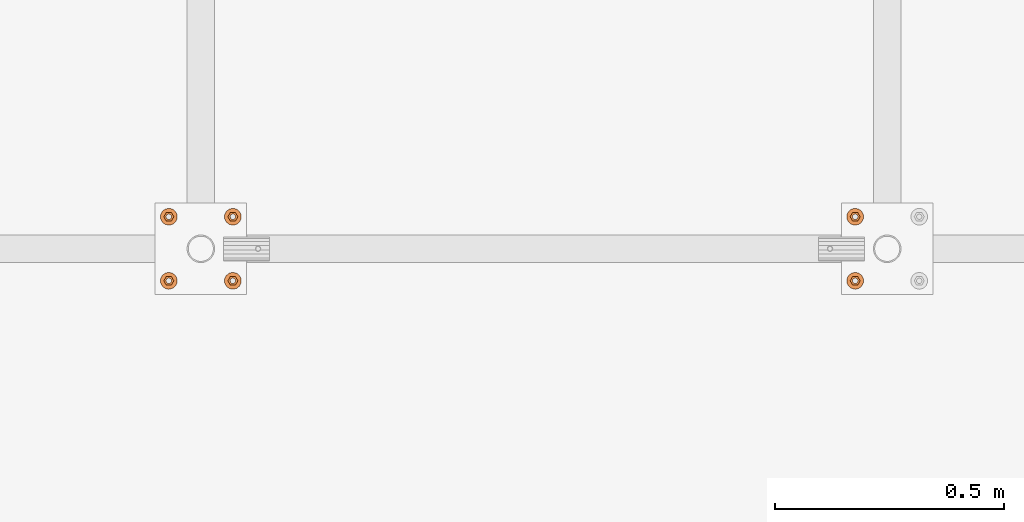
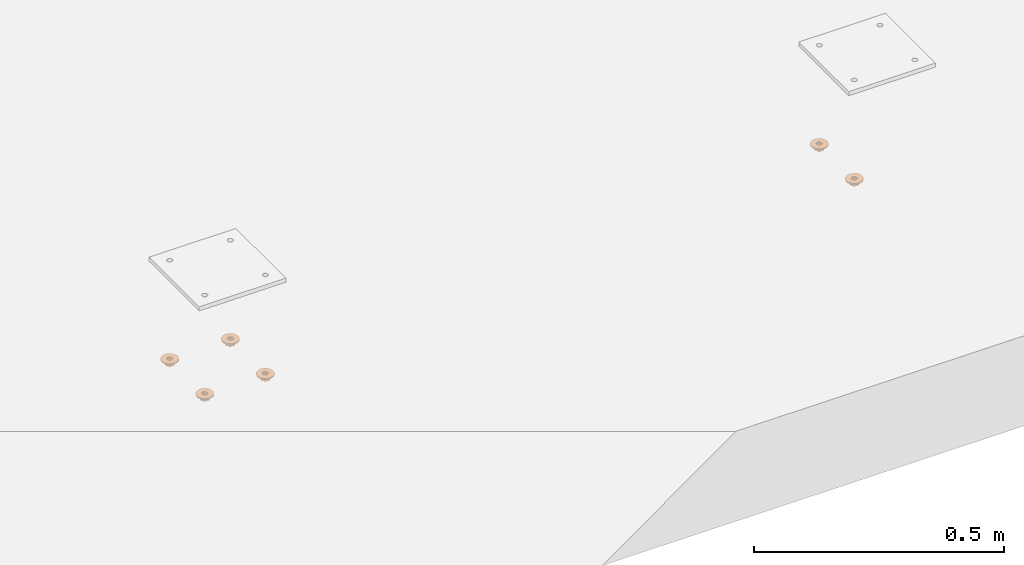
# One storey, part 25 of 30: 12 proxies.
"""IFC2X3 building model written with IfcOpenShell, lengths in millimetres."""

from ifc_helpers import new_model, entity, si_unit, converted_unit, origin_with_axes, place, context, project, spatial, faceted_brep, material, element, save


model = new_model("IFC2X3")

# Units and contexts
model_context = context("Model", 3, precision=1e-09, world=origin_with_axes())
ifc_project = project(units=[si_unit("LENGTHUNIT", "METRE", prefix="MILLI"), si_unit("AREAUNIT", "SQUARE_METRE"), si_unit("VOLUMEUNIT", "CUBIC_METRE"), converted_unit("PLANEANGLEUNIT", "DEGREE", entity("IfcPlaneAngleMeasure", 0.01745329), si_unit("PLANEANGLEUNIT", "RADIAN"), dimensions=[0, 0, 0, 0, 0, 0, 0])], contexts=[model_context])

# Site, building, storey
site_placement = place(None, origin_with_axes())
site = spatial("IfcSite", under=ifc_project, at=site_placement, Name="M?nsinger Stra?e, 81477 M?nchen", CompositionType="ELEMENT")
building_placement = place(site_placement, origin_with_axes())
building = spatial("IfcBuilding", under=site, at=building_placement, Name="Struktur 1", CompositionType="ELEMENT")
storey_placement = place(building_placement, origin_with_axes())
storey = spatial("IfcBuildingStorey", under=building, at=storey_placement, Name="Default Storey", CompositionType="ELEMENT", Elevation=0.0)

# Proxies
ifc_material = material(Name="Kein")
proxy_1_placement = place(None, origin_with_axes())
element("IfcBuildingElementProxy", 1, at=proxy_1_placement, inside=storey, material=ifc_material, ObjectType="-", context=model_context, shape_type="Brep", body=[
    faceted_brep([(5961.851234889, 1409.728698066, 6515.0), (5961.851234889, 1409.728698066, 6512.0), (5968.288268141, 1404.595335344, 6512.0), (5968.288268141, 1404.595335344, 6515.0), (5958.278950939, 1425.379896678, 6515.0), (5958.278950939, 1417.146622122, 6515.0), (5976.315117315, 1402.7632594, 6515.0), (5984.341966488, 1404.595335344, 6515.0), (5990.77899974, 1409.728698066, 6515.0), (5994.35128369, 1417.146622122, 6515.0), (5994.35128369, 1425.379896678, 6515.0), (5990.77899974, 1432.797820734, 6515.0), (5984.341966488, 1437.931183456, 6515.0), (5976.315117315, 1439.7632594, 6515.0), (5968.288268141, 1437.931183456, 6515.0), (5961.851234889, 1432.797820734, 6515.0), (5970.68595219, 1418.0132594, 6515.0), (5969.815117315, 1421.2632594, 6515.0), (5970.68595219, 1424.5132594, 6515.0), (5973.065117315, 1426.892424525, 6515.0), (5976.315117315, 1427.7632594, 6515.0), (5979.565117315, 1426.892424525, 6515.0), (5981.944282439, 1424.5132594, 6515.0), (5982.815117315, 1421.2632594, 6515.0), (5981.944282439, 1418.0132594, 6515.0), (5979.565117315, 1415.634094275, 6515.0), (5976.315117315, 1414.7632594, 6515.0), (5973.065117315, 1415.634094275, 6515.0), (5984.341966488, 1404.595335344, 6512.0), (5976.315117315, 1402.7632594, 6512.0), (5958.278950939, 1417.146622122, 6512.0), (5958.278950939, 1425.379896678, 6512.0), (5961.851234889, 1432.797820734, 6512.0), (5968.288268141, 1437.931183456, 6512.0), (5976.315117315, 1439.7632594, 6512.0), (5984.341966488, 1437.931183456, 6512.0), (5990.77899974, 1432.797820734, 6512.0), (5994.35128369, 1425.379896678, 6512.0), (5994.35128369, 1417.146622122, 6512.0), (5990.77899974, 1409.728698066, 6512.0), (5976.315117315, 1414.7632594, 6512.0), (5979.565117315, 1415.634094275, 6512.0), (5981.944282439, 1418.0132594, 6512.0), (5982.815117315, 1421.2632594, 6512.0), (5981.944282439, 1424.5132594, 6512.0), (5979.565117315, 1426.892424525, 6512.0), (5976.315117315, 1427.7632594, 6512.0), (5973.065117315, 1426.892424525, 6512.0), (5970.68595219, 1424.5132594, 6512.0), (5969.815117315, 1421.2632594, 6512.0), (5970.68595219, 1418.0132594, 6512.0), (5973.065117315, 1415.634094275, 6512.0)], [[[0, 1, 2, 3]], [[4, 5, 0, 3, 6, 7, 8, 9, 10, 11, 12, 13, 14, 15], [16, 17, 18, 19, 20, 21, 22, 23, 24, 25, 26, 27]], [[28, 29, 2, 1, 30, 31, 32, 33, 34, 35, 36, 37, 38, 39], [40, 41, 42, 43, 44, 45, 46, 47, 48, 49, 50, 51]], [[1, 0, 5, 30]], [[27, 51, 50, 16]], [[51, 27, 26, 40]], [[3, 2, 29, 6]], [[30, 5, 4, 31]], [[16, 50, 49, 17]], [[40, 26, 25, 41]], [[6, 29, 28, 7]], [[31, 4, 15, 32]], [[17, 49, 48, 18]], [[41, 25, 24, 42]], [[7, 28, 39, 8]], [[32, 15, 14, 33]], [[18, 48, 47, 19]], [[42, 24, 23, 43]], [[8, 39, 38, 9]], [[33, 14, 13, 34]], [[19, 47, 46, 20]], [[22, 44, 43, 23]], [[9, 38, 37, 10]], [[45, 21, 20, 46]], [[44, 22, 21, 45]], [[34, 13, 12, 35]], [[10, 37, 36, 11]], [[35, 12, 11, 36]]]),
])
proxy_2_placement = place(None, origin_with_axes())
element("IfcBuildingElementProxy", 2, at=proxy_2_placement, inside=storey, material=ifc_material, ObjectType="-", context=model_context, shape_type="Brep", body=[
    faceted_brep([(5976.315117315, 1415.2632594, 6512.0), (5976.315117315, 1415.2632594, 6502.0), (5973.315117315, 1416.067106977, 6502.0), (5973.315117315, 1416.067106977, 6512.0), (5971.118964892, 1418.2632594, 6502.0), (5971.118964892, 1418.2632594, 6512.0), (5979.315117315, 1416.067106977, 6512.0), (5979.315117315, 1416.067106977, 6502.0), (5981.799944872, 1411.7632594, 6512.0), (5987.284772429, 1421.2632594, 6512.0), (5981.799944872, 1430.7632594, 6512.0), (5970.830289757, 1430.7632594, 6512.0), (5965.3454622, 1421.2632594, 6512.0), (5970.830289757, 1411.7632594, 6512.0), (5981.511269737, 1418.2632594, 6512.0), (5970.315117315, 1421.2632594, 6512.0), (5971.118964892, 1424.2632594, 6512.0), (5973.315117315, 1426.459411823, 6512.0), (5976.315117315, 1427.2632594, 6512.0), (5979.315117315, 1426.459411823, 6512.0), (5981.511269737, 1424.2632594, 6512.0), (5982.315117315, 1421.2632594, 6512.0), (5987.284772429, 1421.2632594, 6502.0), (5981.799944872, 1411.7632594, 6502.0), (5970.830289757, 1411.7632594, 6502.0), (5965.3454622, 1421.2632594, 6502.0), (5970.830289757, 1430.7632594, 6502.0), (5981.799944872, 1430.7632594, 6502.0), (5981.511269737, 1418.2632594, 6502.0), (5982.315117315, 1421.2632594, 6502.0), (5981.511269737, 1424.2632594, 6502.0), (5979.315117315, 1426.459411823, 6502.0), (5976.315117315, 1427.2632594, 6502.0), (5973.315117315, 1426.459411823, 6502.0), (5971.118964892, 1424.2632594, 6502.0), (5970.315117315, 1421.2632594, 6502.0)], [[[0, 1, 2, 3]], [[3, 2, 4, 5]], [[1, 0, 6, 7]], [[8, 9, 10, 11, 12, 13], [14, 6, 0, 3, 5, 15, 16, 17, 18, 19, 20, 21]], [[22, 23, 24, 25, 26, 27], [1, 7, 28, 29, 30, 31, 32, 33, 34, 35, 4, 2]], [[7, 6, 14, 28]], [[24, 23, 8, 13]], [[5, 4, 35, 15]], [[13, 12, 25, 24]], [[28, 14, 21, 29]], [[23, 22, 9, 8]], [[15, 35, 34, 16]], [[12, 11, 26, 25]], [[29, 21, 20, 30]], [[22, 27, 10, 9]], [[16, 34, 33, 17]], [[27, 26, 11, 10]], [[30, 20, 19, 31]], [[17, 33, 32, 18]], [[31, 19, 18, 32]]]),
])
proxy_3_placement = place(None, origin_with_axes())
element("IfcBuildingElementProxy", 3, at=proxy_3_placement, inside=storey, material=ifc_material, ObjectType="-", context=model_context, shape_type="Brep", body=[
    faceted_brep([(5976.315117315, 1555.2632594, 6512.0), (5976.315117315, 1555.2632594, 6502.0), (5973.315117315, 1556.067106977, 6502.0), (5973.315117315, 1556.067106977, 6512.0), (5971.118964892, 1558.2632594, 6502.0), (5971.118964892, 1558.2632594, 6512.0), (5979.315117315, 1556.067106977, 6512.0), (5979.315117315, 1556.067106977, 6502.0), (5981.799944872, 1551.7632594, 6512.0), (5987.284772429, 1561.2632594, 6512.0), (5981.799944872, 1570.7632594, 6512.0), (5970.830289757, 1570.7632594, 6512.0), (5965.3454622, 1561.2632594, 6512.0), (5970.830289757, 1551.7632594, 6512.0), (5981.511269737, 1558.2632594, 6512.0), (5970.315117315, 1561.2632594, 6512.0), (5971.118964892, 1564.2632594, 6512.0), (5973.315117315, 1566.459411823, 6512.0), (5976.315117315, 1567.2632594, 6512.0), (5979.315117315, 1566.459411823, 6512.0), (5981.511269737, 1564.2632594, 6512.0), (5982.315117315, 1561.2632594, 6512.0), (5987.284772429, 1561.2632594, 6502.0), (5981.799944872, 1551.7632594, 6502.0), (5970.830289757, 1551.7632594, 6502.0), (5965.3454622, 1561.2632594, 6502.0), (5970.830289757, 1570.7632594, 6502.0), (5981.799944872, 1570.7632594, 6502.0), (5981.511269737, 1558.2632594, 6502.0), (5982.315117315, 1561.2632594, 6502.0), (5981.511269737, 1564.2632594, 6502.0), (5979.315117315, 1566.459411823, 6502.0), (5976.315117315, 1567.2632594, 6502.0), (5973.315117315, 1566.459411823, 6502.0), (5971.118964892, 1564.2632594, 6502.0), (5970.315117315, 1561.2632594, 6502.0)], [[[0, 1, 2, 3]], [[3, 2, 4, 5]], [[1, 0, 6, 7]], [[8, 9, 10, 11, 12, 13], [14, 6, 0, 3, 5, 15, 16, 17, 18, 19, 20, 21]], [[22, 23, 24, 25, 26, 27], [1, 7, 28, 29, 30, 31, 32, 33, 34, 35, 4, 2]], [[7, 6, 14, 28]], [[24, 23, 8, 13]], [[5, 4, 35, 15]], [[13, 12, 25, 24]], [[28, 14, 21, 29]], [[23, 22, 9, 8]], [[15, 35, 34, 16]], [[12, 11, 26, 25]], [[29, 21, 20, 30]], [[22, 27, 10, 9]], [[16, 34, 33, 17]], [[27, 26, 11, 10]], [[30, 20, 19, 31]], [[17, 33, 32, 18]], [[31, 19, 18, 32]]]),
])
proxy_4_placement = place(None, origin_with_axes())
element("IfcBuildingElementProxy", 4, at=proxy_4_placement, inside=storey, material=ifc_material, ObjectType="-", context=model_context, shape_type="Brep", body=[
    faceted_brep([(5961.851234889, 1549.728698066, 6515.0), (5961.851234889, 1549.728698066, 6512.0), (5968.288268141, 1544.595335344, 6512.0), (5968.288268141, 1544.595335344, 6515.0), (5958.278950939, 1565.379896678, 6515.0), (5958.278950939, 1557.146622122, 6515.0), (5976.315117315, 1542.7632594, 6515.0), (5984.341966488, 1544.595335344, 6515.0), (5990.77899974, 1549.728698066, 6515.0), (5994.35128369, 1557.146622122, 6515.0), (5994.35128369, 1565.379896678, 6515.0), (5990.77899974, 1572.797820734, 6515.0), (5984.341966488, 1577.931183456, 6515.0), (5976.315117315, 1579.7632594, 6515.0), (5968.288268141, 1577.931183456, 6515.0), (5961.851234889, 1572.797820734, 6515.0), (5970.68595219, 1558.0132594, 6515.0), (5969.815117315, 1561.2632594, 6515.0), (5970.68595219, 1564.5132594, 6515.0), (5973.065117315, 1566.892424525, 6515.0), (5976.315117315, 1567.7632594, 6515.0), (5979.565117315, 1566.892424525, 6515.0), (5981.944282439, 1564.5132594, 6515.0), (5982.815117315, 1561.2632594, 6515.0), (5981.944282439, 1558.0132594, 6515.0), (5979.565117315, 1555.634094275, 6515.0), (5976.315117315, 1554.7632594, 6515.0), (5973.065117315, 1555.634094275, 6515.0), (5984.341966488, 1544.595335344, 6512.0), (5976.315117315, 1542.7632594, 6512.0), (5958.278950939, 1557.146622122, 6512.0), (5958.278950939, 1565.379896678, 6512.0), (5961.851234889, 1572.797820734, 6512.0), (5968.288268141, 1577.931183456, 6512.0), (5976.315117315, 1579.7632594, 6512.0), (5984.341966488, 1577.931183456, 6512.0), (5990.77899974, 1572.797820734, 6512.0), (5994.35128369, 1565.379896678, 6512.0), (5994.35128369, 1557.146622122, 6512.0), (5990.77899974, 1549.728698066, 6512.0), (5976.315117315, 1554.7632594, 6512.0), (5979.565117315, 1555.634094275, 6512.0), (5981.944282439, 1558.0132594, 6512.0), (5982.815117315, 1561.2632594, 6512.0), (5981.944282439, 1564.5132594, 6512.0), (5979.565117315, 1566.892424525, 6512.0), (5976.315117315, 1567.7632594, 6512.0), (5973.065117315, 1566.892424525, 6512.0), (5970.68595219, 1564.5132594, 6512.0), (5969.815117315, 1561.2632594, 6512.0), (5970.68595219, 1558.0132594, 6512.0), (5973.065117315, 1555.634094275, 6512.0)], [[[0, 1, 2, 3]], [[4, 5, 0, 3, 6, 7, 8, 9, 10, 11, 12, 13, 14, 15], [16, 17, 18, 19, 20, 21, 22, 23, 24, 25, 26, 27]], [[28, 29, 2, 1, 30, 31, 32, 33, 34, 35, 36, 37, 38, 39], [40, 41, 42, 43, 44, 45, 46, 47, 48, 49, 50, 51]], [[1, 0, 5, 30]], [[27, 51, 50, 16]], [[51, 27, 26, 40]], [[3, 2, 29, 6]], [[30, 5, 4, 31]], [[16, 50, 49, 17]], [[40, 26, 25, 41]], [[6, 29, 28, 7]], [[31, 4, 15, 32]], [[17, 49, 48, 18]], [[41, 25, 24, 42]], [[7, 28, 39, 8]], [[32, 15, 14, 33]], [[18, 48, 47, 19]], [[42, 24, 23, 43]], [[8, 39, 38, 9]], [[33, 14, 13, 34]], [[19, 47, 46, 20]], [[22, 44, 43, 23]], [[9, 38, 37, 10]], [[45, 21, 20, 46]], [[44, 22, 21, 45]], [[34, 13, 12, 35]], [[10, 37, 36, 11]], [[35, 12, 11, 36]]]),
])
proxy_5_placement = place(None, origin_with_axes())
element("IfcBuildingElementProxy", 5, at=proxy_5_placement, inside=storey, material=ifc_material, ObjectType="-", context=model_context, shape_type="Brep", body=[
    faceted_brep([(5821.851234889, 1549.728698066, 6515.0), (5821.851234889, 1549.728698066, 6512.0), (5828.288268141, 1544.595335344, 6512.0), (5828.288268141, 1544.595335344, 6515.0), (5818.278950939, 1565.379896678, 6515.0), (5818.278950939, 1557.146622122, 6515.0), (5836.315117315, 1542.7632594, 6515.0), (5844.341966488, 1544.595335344, 6515.0), (5850.77899974, 1549.728698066, 6515.0), (5854.35128369, 1557.146622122, 6515.0), (5854.35128369, 1565.379896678, 6515.0), (5850.77899974, 1572.797820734, 6515.0), (5844.341966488, 1577.931183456, 6515.0), (5836.315117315, 1579.7632594, 6515.0), (5828.288268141, 1577.931183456, 6515.0), (5821.851234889, 1572.797820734, 6515.0), (5830.68595219, 1558.0132594, 6515.0), (5829.815117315, 1561.2632594, 6515.0), (5830.68595219, 1564.5132594, 6515.0), (5833.065117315, 1566.892424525, 6515.0), (5836.315117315, 1567.7632594, 6515.0), (5839.565117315, 1566.892424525, 6515.0), (5841.944282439, 1564.5132594, 6515.0), (5842.815117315, 1561.2632594, 6515.0), (5841.944282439, 1558.0132594, 6515.0), (5839.565117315, 1555.634094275, 6515.0), (5836.315117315, 1554.7632594, 6515.0), (5833.065117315, 1555.634094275, 6515.0), (5844.341966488, 1544.595335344, 6512.0), (5836.315117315, 1542.7632594, 6512.0), (5818.278950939, 1557.146622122, 6512.0), (5818.278950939, 1565.379896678, 6512.0), (5821.851234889, 1572.797820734, 6512.0), (5828.288268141, 1577.931183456, 6512.0), (5836.315117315, 1579.7632594, 6512.0), (5844.341966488, 1577.931183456, 6512.0), (5850.77899974, 1572.797820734, 6512.0), (5854.35128369, 1565.379896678, 6512.0), (5854.35128369, 1557.146622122, 6512.0), (5850.77899974, 1549.728698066, 6512.0), (5836.315117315, 1554.7632594, 6512.0), (5839.565117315, 1555.634094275, 6512.0), (5841.944282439, 1558.0132594, 6512.0), (5842.815117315, 1561.2632594, 6512.0), (5841.944282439, 1564.5132594, 6512.0), (5839.565117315, 1566.892424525, 6512.0), (5836.315117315, 1567.7632594, 6512.0), (5833.065117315, 1566.892424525, 6512.0), (5830.68595219, 1564.5132594, 6512.0), (5829.815117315, 1561.2632594, 6512.0), (5830.68595219, 1558.0132594, 6512.0), (5833.065117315, 1555.634094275, 6512.0)], [[[0, 1, 2, 3]], [[4, 5, 0, 3, 6, 7, 8, 9, 10, 11, 12, 13, 14, 15], [16, 17, 18, 19, 20, 21, 22, 23, 24, 25, 26, 27]], [[28, 29, 2, 1, 30, 31, 32, 33, 34, 35, 36, 37, 38, 39], [40, 41, 42, 43, 44, 45, 46, 47, 48, 49, 50, 51]], [[1, 0, 5, 30]], [[27, 51, 50, 16]], [[51, 27, 26, 40]], [[3, 2, 29, 6]], [[30, 5, 4, 31]], [[16, 50, 49, 17]], [[40, 26, 25, 41]], [[6, 29, 28, 7]], [[31, 4, 15, 32]], [[17, 49, 48, 18]], [[41, 25, 24, 42]], [[7, 28, 39, 8]], [[32, 15, 14, 33]], [[18, 48, 47, 19]], [[42, 24, 23, 43]], [[8, 39, 38, 9]], [[33, 14, 13, 34]], [[19, 47, 46, 20]], [[22, 44, 43, 23]], [[9, 38, 37, 10]], [[45, 21, 20, 46]], [[44, 22, 21, 45]], [[34, 13, 12, 35]], [[10, 37, 36, 11]], [[35, 12, 11, 36]]]),
])
proxy_6_placement = place(None, origin_with_axes())
element("IfcBuildingElementProxy", 6, at=proxy_6_placement, inside=storey, material=ifc_material, ObjectType="-", context=model_context, shape_type="Brep", body=[
    faceted_brep([(5836.315117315, 1555.2632594, 6512.0), (5836.315117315, 1555.2632594, 6502.0), (5833.315117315, 1556.067106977, 6502.0), (5833.315117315, 1556.067106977, 6512.0), (5831.118964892, 1558.2632594, 6502.0), (5831.118964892, 1558.2632594, 6512.0), (5839.315117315, 1556.067106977, 6512.0), (5839.315117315, 1556.067106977, 6502.0), (5841.799944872, 1551.7632594, 6512.0), (5847.284772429, 1561.2632594, 6512.0), (5841.799944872, 1570.7632594, 6512.0), (5830.830289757, 1570.7632594, 6512.0), (5825.3454622, 1561.2632594, 6512.0), (5830.830289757, 1551.7632594, 6512.0), (5841.511269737, 1558.2632594, 6512.0), (5830.315117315, 1561.2632594, 6512.0), (5831.118964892, 1564.2632594, 6512.0), (5833.315117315, 1566.459411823, 6512.0), (5836.315117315, 1567.2632594, 6512.0), (5839.315117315, 1566.459411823, 6512.0), (5841.511269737, 1564.2632594, 6512.0), (5842.315117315, 1561.2632594, 6512.0), (5847.284772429, 1561.2632594, 6502.0), (5841.799944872, 1551.7632594, 6502.0), (5830.830289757, 1551.7632594, 6502.0), (5825.3454622, 1561.2632594, 6502.0), (5830.830289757, 1570.7632594, 6502.0), (5841.799944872, 1570.7632594, 6502.0), (5841.511269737, 1558.2632594, 6502.0), (5842.315117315, 1561.2632594, 6502.0), (5841.511269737, 1564.2632594, 6502.0), (5839.315117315, 1566.459411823, 6502.0), (5836.315117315, 1567.2632594, 6502.0), (5833.315117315, 1566.459411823, 6502.0), (5831.118964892, 1564.2632594, 6502.0), (5830.315117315, 1561.2632594, 6502.0)], [[[0, 1, 2, 3]], [[3, 2, 4, 5]], [[1, 0, 6, 7]], [[8, 9, 10, 11, 12, 13], [14, 6, 0, 3, 5, 15, 16, 17, 18, 19, 20, 21]], [[22, 23, 24, 25, 26, 27], [1, 7, 28, 29, 30, 31, 32, 33, 34, 35, 4, 2]], [[7, 6, 14, 28]], [[24, 23, 8, 13]], [[5, 4, 35, 15]], [[13, 12, 25, 24]], [[28, 14, 21, 29]], [[23, 22, 9, 8]], [[15, 35, 34, 16]], [[12, 11, 26, 25]], [[29, 21, 20, 30]], [[22, 27, 10, 9]], [[16, 34, 33, 17]], [[27, 26, 11, 10]], [[30, 20, 19, 31]], [[17, 33, 32, 18]], [[31, 19, 18, 32]]]),
])
proxy_7_placement = place(None, origin_with_axes())
element("IfcBuildingElementProxy", 7, at=proxy_7_placement, inside=storey, material=ifc_material, ObjectType="-", context=model_context, shape_type="Brep", body=[
    faceted_brep([(5836.315117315, 1415.2632594, 6512.0), (5836.315117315, 1415.2632594, 6502.0), (5833.315117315, 1416.067106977, 6502.0), (5833.315117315, 1416.067106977, 6512.0), (5831.118964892, 1418.2632594, 6502.0), (5831.118964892, 1418.2632594, 6512.0), (5839.315117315, 1416.067106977, 6512.0), (5839.315117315, 1416.067106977, 6502.0), (5841.799944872, 1411.7632594, 6512.0), (5847.284772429, 1421.2632594, 6512.0), (5841.799944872, 1430.7632594, 6512.0), (5830.830289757, 1430.7632594, 6512.0), (5825.3454622, 1421.2632594, 6512.0), (5830.830289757, 1411.7632594, 6512.0), (5841.511269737, 1418.2632594, 6512.0), (5830.315117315, 1421.2632594, 6512.0), (5831.118964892, 1424.2632594, 6512.0), (5833.315117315, 1426.459411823, 6512.0), (5836.315117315, 1427.2632594, 6512.0), (5839.315117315, 1426.459411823, 6512.0), (5841.511269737, 1424.2632594, 6512.0), (5842.315117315, 1421.2632594, 6512.0), (5847.284772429, 1421.2632594, 6502.0), (5841.799944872, 1411.7632594, 6502.0), (5830.830289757, 1411.7632594, 6502.0), (5825.3454622, 1421.2632594, 6502.0), (5830.830289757, 1430.7632594, 6502.0), (5841.799944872, 1430.7632594, 6502.0), (5841.511269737, 1418.2632594, 6502.0), (5842.315117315, 1421.2632594, 6502.0), (5841.511269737, 1424.2632594, 6502.0), (5839.315117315, 1426.459411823, 6502.0), (5836.315117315, 1427.2632594, 6502.0), (5833.315117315, 1426.459411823, 6502.0), (5831.118964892, 1424.2632594, 6502.0), (5830.315117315, 1421.2632594, 6502.0)], [[[0, 1, 2, 3]], [[3, 2, 4, 5]], [[1, 0, 6, 7]], [[8, 9, 10, 11, 12, 13], [14, 6, 0, 3, 5, 15, 16, 17, 18, 19, 20, 21]], [[22, 23, 24, 25, 26, 27], [1, 7, 28, 29, 30, 31, 32, 33, 34, 35, 4, 2]], [[7, 6, 14, 28]], [[24, 23, 8, 13]], [[5, 4, 35, 15]], [[13, 12, 25, 24]], [[28, 14, 21, 29]], [[23, 22, 9, 8]], [[15, 35, 34, 16]], [[12, 11, 26, 25]], [[29, 21, 20, 30]], [[22, 27, 10, 9]], [[16, 34, 33, 17]], [[27, 26, 11, 10]], [[30, 20, 19, 31]], [[17, 33, 32, 18]], [[31, 19, 18, 32]]]),
])
proxy_8_placement = place(None, origin_with_axes())
element("IfcBuildingElementProxy", 8, at=proxy_8_placement, inside=storey, material=ifc_material, ObjectType="-", context=model_context, shape_type="Brep", body=[
    faceted_brep([(5821.851234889, 1409.728698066, 6515.0), (5821.851234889, 1409.728698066, 6512.0), (5828.288268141, 1404.595335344, 6512.0), (5828.288268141, 1404.595335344, 6515.0), (5818.278950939, 1425.379896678, 6515.0), (5818.278950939, 1417.146622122, 6515.0), (5836.315117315, 1402.7632594, 6515.0), (5844.341966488, 1404.595335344, 6515.0), (5850.77899974, 1409.728698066, 6515.0), (5854.35128369, 1417.146622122, 6515.0), (5854.35128369, 1425.379896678, 6515.0), (5850.77899974, 1432.797820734, 6515.0), (5844.341966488, 1437.931183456, 6515.0), (5836.315117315, 1439.7632594, 6515.0), (5828.288268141, 1437.931183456, 6515.0), (5821.851234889, 1432.797820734, 6515.0), (5830.68595219, 1418.0132594, 6515.0), (5829.815117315, 1421.2632594, 6515.0), (5830.68595219, 1424.5132594, 6515.0), (5833.065117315, 1426.892424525, 6515.0), (5836.315117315, 1427.7632594, 6515.0), (5839.565117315, 1426.892424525, 6515.0), (5841.944282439, 1424.5132594, 6515.0), (5842.815117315, 1421.2632594, 6515.0), (5841.944282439, 1418.0132594, 6515.0), (5839.565117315, 1415.634094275, 6515.0), (5836.315117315, 1414.7632594, 6515.0), (5833.065117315, 1415.634094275, 6515.0), (5844.341966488, 1404.595335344, 6512.0), (5836.315117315, 1402.7632594, 6512.0), (5818.278950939, 1417.146622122, 6512.0), (5818.278950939, 1425.379896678, 6512.0), (5821.851234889, 1432.797820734, 6512.0), (5828.288268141, 1437.931183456, 6512.0), (5836.315117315, 1439.7632594, 6512.0), (5844.341966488, 1437.931183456, 6512.0), (5850.77899974, 1432.797820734, 6512.0), (5854.35128369, 1425.379896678, 6512.0), (5854.35128369, 1417.146622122, 6512.0), (5850.77899974, 1409.728698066, 6512.0), (5836.315117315, 1414.7632594, 6512.0), (5839.565117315, 1415.634094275, 6512.0), (5841.944282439, 1418.0132594, 6512.0), (5842.815117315, 1421.2632594, 6512.0), (5841.944282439, 1424.5132594, 6512.0), (5839.565117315, 1426.892424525, 6512.0), (5836.315117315, 1427.7632594, 6512.0), (5833.065117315, 1426.892424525, 6512.0), (5830.68595219, 1424.5132594, 6512.0), (5829.815117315, 1421.2632594, 6512.0), (5830.68595219, 1418.0132594, 6512.0), (5833.065117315, 1415.634094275, 6512.0)], [[[0, 1, 2, 3]], [[4, 5, 0, 3, 6, 7, 8, 9, 10, 11, 12, 13, 14, 15], [16, 17, 18, 19, 20, 21, 22, 23, 24, 25, 26, 27]], [[28, 29, 2, 1, 30, 31, 32, 33, 34, 35, 36, 37, 38, 39], [40, 41, 42, 43, 44, 45, 46, 47, 48, 49, 50, 51]], [[1, 0, 5, 30]], [[27, 51, 50, 16]], [[51, 27, 26, 40]], [[3, 2, 29, 6]], [[30, 5, 4, 31]], [[16, 50, 49, 17]], [[40, 26, 25, 41]], [[6, 29, 28, 7]], [[31, 4, 15, 32]], [[17, 49, 48, 18]], [[41, 25, 24, 42]], [[7, 28, 39, 8]], [[32, 15, 14, 33]], [[18, 48, 47, 19]], [[42, 24, 23, 43]], [[8, 39, 38, 9]], [[33, 14, 13, 34]], [[19, 47, 46, 20]], [[22, 44, 43, 23]], [[9, 38, 37, 10]], [[45, 21, 20, 46]], [[44, 22, 21, 45]], [[34, 13, 12, 35]], [[10, 37, 36, 11]], [[35, 12, 11, 36]]]),
])
proxy_9_placement = place(None, origin_with_axes())
element("IfcBuildingElementProxy", 9, at=proxy_9_placement, inside=storey, material=ifc_material, ObjectType="-", context=model_context, shape_type="Brep", body=[
    faceted_brep([(7336.315117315, 1415.2632594, 6512.0), (7336.315117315, 1415.2632594, 6502.0), (7333.315117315, 1416.067106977, 6502.0), (7333.315117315, 1416.067106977, 6512.0), (7331.118964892, 1418.2632594, 6502.0), (7331.118964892, 1418.2632594, 6512.0), (7339.315117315, 1416.067106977, 6512.0), (7339.315117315, 1416.067106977, 6502.0), (7341.799944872, 1411.7632594, 6512.0), (7347.284772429, 1421.2632594, 6512.0), (7341.799944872, 1430.7632594, 6512.0), (7330.830289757, 1430.7632594, 6512.0), (7325.3454622, 1421.2632594, 6512.0), (7330.830289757, 1411.7632594, 6512.0), (7341.511269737, 1418.2632594, 6512.0), (7330.315117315, 1421.2632594, 6512.0), (7331.118964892, 1424.2632594, 6512.0), (7333.315117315, 1426.459411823, 6512.0), (7336.315117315, 1427.2632594, 6512.0), (7339.315117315, 1426.459411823, 6512.0), (7341.511269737, 1424.2632594, 6512.0), (7342.315117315, 1421.2632594, 6512.0), (7347.284772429, 1421.2632594, 6502.0), (7341.799944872, 1411.7632594, 6502.0), (7330.830289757, 1411.7632594, 6502.0), (7325.3454622, 1421.2632594, 6502.0), (7330.830289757, 1430.7632594, 6502.0), (7341.799944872, 1430.7632594, 6502.0), (7341.511269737, 1418.2632594, 6502.0), (7342.315117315, 1421.2632594, 6502.0), (7341.511269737, 1424.2632594, 6502.0), (7339.315117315, 1426.459411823, 6502.0), (7336.315117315, 1427.2632594, 6502.0), (7333.315117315, 1426.459411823, 6502.0), (7331.118964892, 1424.2632594, 6502.0), (7330.315117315, 1421.2632594, 6502.0)], [[[0, 1, 2, 3]], [[3, 2, 4, 5]], [[1, 0, 6, 7]], [[8, 9, 10, 11, 12, 13], [14, 6, 0, 3, 5, 15, 16, 17, 18, 19, 20, 21]], [[22, 23, 24, 25, 26, 27], [1, 7, 28, 29, 30, 31, 32, 33, 34, 35, 4, 2]], [[7, 6, 14, 28]], [[24, 23, 8, 13]], [[5, 4, 35, 15]], [[13, 12, 25, 24]], [[28, 14, 21, 29]], [[23, 22, 9, 8]], [[15, 35, 34, 16]], [[12, 11, 26, 25]], [[29, 21, 20, 30]], [[22, 27, 10, 9]], [[16, 34, 33, 17]], [[27, 26, 11, 10]], [[30, 20, 19, 31]], [[17, 33, 32, 18]], [[31, 19, 18, 32]]]),
])
proxy_10_placement = place(None, origin_with_axes())
element("IfcBuildingElementProxy", 10, at=proxy_10_placement, inside=storey, material=ifc_material, ObjectType="-", context=model_context, shape_type="Brep", body=[
    faceted_brep([(7321.851234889, 1409.728698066, 6515.0), (7321.851234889, 1409.728698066, 6512.0), (7328.288268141, 1404.595335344, 6512.0), (7328.288268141, 1404.595335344, 6515.0), (7318.278950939, 1425.379896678, 6515.0), (7318.278950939, 1417.146622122, 6515.0), (7336.315117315, 1402.7632594, 6515.0), (7344.341966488, 1404.595335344, 6515.0), (7350.77899974, 1409.728698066, 6515.0), (7354.35128369, 1417.146622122, 6515.0), (7354.35128369, 1425.379896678, 6515.0), (7350.77899974, 1432.797820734, 6515.0), (7344.341966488, 1437.931183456, 6515.0), (7336.315117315, 1439.7632594, 6515.0), (7328.288268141, 1437.931183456, 6515.0), (7321.851234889, 1432.797820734, 6515.0), (7330.68595219, 1418.0132594, 6515.0), (7329.815117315, 1421.2632594, 6515.0), (7330.68595219, 1424.5132594, 6515.0), (7333.065117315, 1426.892424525, 6515.0), (7336.315117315, 1427.7632594, 6515.0), (7339.565117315, 1426.892424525, 6515.0), (7341.944282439, 1424.5132594, 6515.0), (7342.815117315, 1421.2632594, 6515.0), (7341.944282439, 1418.0132594, 6515.0), (7339.565117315, 1415.634094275, 6515.0), (7336.315117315, 1414.7632594, 6515.0), (7333.065117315, 1415.634094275, 6515.0), (7344.341966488, 1404.595335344, 6512.0), (7336.315117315, 1402.7632594, 6512.0), (7318.278950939, 1417.146622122, 6512.0), (7318.278950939, 1425.379896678, 6512.0), (7321.851234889, 1432.797820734, 6512.0), (7328.288268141, 1437.931183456, 6512.0), (7336.315117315, 1439.7632594, 6512.0), (7344.341966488, 1437.931183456, 6512.0), (7350.77899974, 1432.797820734, 6512.0), (7354.35128369, 1425.379896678, 6512.0), (7354.35128369, 1417.146622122, 6512.0), (7350.77899974, 1409.728698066, 6512.0), (7336.315117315, 1414.7632594, 6512.0), (7339.565117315, 1415.634094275, 6512.0), (7341.944282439, 1418.0132594, 6512.0), (7342.815117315, 1421.2632594, 6512.0), (7341.944282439, 1424.5132594, 6512.0), (7339.565117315, 1426.892424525, 6512.0), (7336.315117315, 1427.7632594, 6512.0), (7333.065117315, 1426.892424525, 6512.0), (7330.68595219, 1424.5132594, 6512.0), (7329.815117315, 1421.2632594, 6512.0), (7330.68595219, 1418.0132594, 6512.0), (7333.065117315, 1415.634094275, 6512.0)], [[[0, 1, 2, 3]], [[4, 5, 0, 3, 6, 7, 8, 9, 10, 11, 12, 13, 14, 15], [16, 17, 18, 19, 20, 21, 22, 23, 24, 25, 26, 27]], [[28, 29, 2, 1, 30, 31, 32, 33, 34, 35, 36, 37, 38, 39], [40, 41, 42, 43, 44, 45, 46, 47, 48, 49, 50, 51]], [[1, 0, 5, 30]], [[27, 51, 50, 16]], [[51, 27, 26, 40]], [[3, 2, 29, 6]], [[30, 5, 4, 31]], [[16, 50, 49, 17]], [[40, 26, 25, 41]], [[6, 29, 28, 7]], [[31, 4, 15, 32]], [[17, 49, 48, 18]], [[41, 25, 24, 42]], [[7, 28, 39, 8]], [[32, 15, 14, 33]], [[18, 48, 47, 19]], [[42, 24, 23, 43]], [[8, 39, 38, 9]], [[33, 14, 13, 34]], [[19, 47, 46, 20]], [[22, 44, 43, 23]], [[9, 38, 37, 10]], [[45, 21, 20, 46]], [[44, 22, 21, 45]], [[34, 13, 12, 35]], [[10, 37, 36, 11]], [[35, 12, 11, 36]]]),
])
proxy_11_placement = place(None, origin_with_axes())
element("IfcBuildingElementProxy", 11, at=proxy_11_placement, inside=storey, material=ifc_material, ObjectType="-", context=model_context, shape_type="Brep", body=[
    faceted_brep([(7321.851234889, 1549.728698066, 6515.0), (7321.851234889, 1549.728698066, 6512.0), (7328.288268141, 1544.595335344, 6512.0), (7328.288268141, 1544.595335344, 6515.0), (7318.278950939, 1565.379896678, 6515.0), (7318.278950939, 1557.146622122, 6515.0), (7336.315117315, 1542.7632594, 6515.0), (7344.341966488, 1544.595335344, 6515.0), (7350.77899974, 1549.728698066, 6515.0), (7354.35128369, 1557.146622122, 6515.0), (7354.35128369, 1565.379896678, 6515.0), (7350.77899974, 1572.797820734, 6515.0), (7344.341966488, 1577.931183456, 6515.0), (7336.315117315, 1579.7632594, 6515.0), (7328.288268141, 1577.931183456, 6515.0), (7321.851234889, 1572.797820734, 6515.0), (7330.68595219, 1558.0132594, 6515.0), (7329.815117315, 1561.2632594, 6515.0), (7330.68595219, 1564.5132594, 6515.0), (7333.065117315, 1566.892424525, 6515.0), (7336.315117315, 1567.7632594, 6515.0), (7339.565117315, 1566.892424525, 6515.0), (7341.944282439, 1564.5132594, 6515.0), (7342.815117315, 1561.2632594, 6515.0), (7341.944282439, 1558.0132594, 6515.0), (7339.565117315, 1555.634094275, 6515.0), (7336.315117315, 1554.7632594, 6515.0), (7333.065117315, 1555.634094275, 6515.0), (7344.341966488, 1544.595335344, 6512.0), (7336.315117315, 1542.7632594, 6512.0), (7318.278950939, 1557.146622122, 6512.0), (7318.278950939, 1565.379896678, 6512.0), (7321.851234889, 1572.797820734, 6512.0), (7328.288268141, 1577.931183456, 6512.0), (7336.315117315, 1579.7632594, 6512.0), (7344.341966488, 1577.931183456, 6512.0), (7350.77899974, 1572.797820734, 6512.0), (7354.35128369, 1565.379896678, 6512.0), (7354.35128369, 1557.146622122, 6512.0), (7350.77899974, 1549.728698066, 6512.0), (7336.315117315, 1554.7632594, 6512.0), (7339.565117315, 1555.634094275, 6512.0), (7341.944282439, 1558.0132594, 6512.0), (7342.815117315, 1561.2632594, 6512.0), (7341.944282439, 1564.5132594, 6512.0), (7339.565117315, 1566.892424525, 6512.0), (7336.315117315, 1567.7632594, 6512.0), (7333.065117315, 1566.892424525, 6512.0), (7330.68595219, 1564.5132594, 6512.0), (7329.815117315, 1561.2632594, 6512.0), (7330.68595219, 1558.0132594, 6512.0), (7333.065117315, 1555.634094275, 6512.0)], [[[0, 1, 2, 3]], [[4, 5, 0, 3, 6, 7, 8, 9, 10, 11, 12, 13, 14, 15], [16, 17, 18, 19, 20, 21, 22, 23, 24, 25, 26, 27]], [[28, 29, 2, 1, 30, 31, 32, 33, 34, 35, 36, 37, 38, 39], [40, 41, 42, 43, 44, 45, 46, 47, 48, 49, 50, 51]], [[1, 0, 5, 30]], [[27, 51, 50, 16]], [[51, 27, 26, 40]], [[3, 2, 29, 6]], [[30, 5, 4, 31]], [[16, 50, 49, 17]], [[40, 26, 25, 41]], [[6, 29, 28, 7]], [[31, 4, 15, 32]], [[17, 49, 48, 18]], [[41, 25, 24, 42]], [[7, 28, 39, 8]], [[32, 15, 14, 33]], [[18, 48, 47, 19]], [[42, 24, 23, 43]], [[8, 39, 38, 9]], [[33, 14, 13, 34]], [[19, 47, 46, 20]], [[22, 44, 43, 23]], [[9, 38, 37, 10]], [[45, 21, 20, 46]], [[44, 22, 21, 45]], [[34, 13, 12, 35]], [[10, 37, 36, 11]], [[35, 12, 11, 36]]]),
])
proxy_12_placement = place(None, origin_with_axes())
element("IfcBuildingElementProxy", 12, at=proxy_12_placement, inside=storey, material=ifc_material, ObjectType="-", context=model_context, shape_type="Brep", body=[
    faceted_brep([(7336.315117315, 1555.2632594, 6512.0), (7336.315117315, 1555.2632594, 6502.0), (7333.315117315, 1556.067106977, 6502.0), (7333.315117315, 1556.067106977, 6512.0), (7331.118964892, 1558.2632594, 6502.0), (7331.118964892, 1558.2632594, 6512.0), (7339.315117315, 1556.067106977, 6512.0), (7339.315117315, 1556.067106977, 6502.0), (7341.799944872, 1551.7632594, 6512.0), (7347.284772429, 1561.2632594, 6512.0), (7341.799944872, 1570.7632594, 6512.0), (7330.830289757, 1570.7632594, 6512.0), (7325.3454622, 1561.2632594, 6512.0), (7330.830289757, 1551.7632594, 6512.0), (7341.511269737, 1558.2632594, 6512.0), (7330.315117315, 1561.2632594, 6512.0), (7331.118964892, 1564.2632594, 6512.0), (7333.315117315, 1566.459411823, 6512.0), (7336.315117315, 1567.2632594, 6512.0), (7339.315117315, 1566.459411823, 6512.0), (7341.511269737, 1564.2632594, 6512.0), (7342.315117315, 1561.2632594, 6512.0), (7347.284772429, 1561.2632594, 6502.0), (7341.799944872, 1551.7632594, 6502.0), (7330.830289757, 1551.7632594, 6502.0), (7325.3454622, 1561.2632594, 6502.0), (7330.830289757, 1570.7632594, 6502.0), (7341.799944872, 1570.7632594, 6502.0), (7341.511269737, 1558.2632594, 6502.0), (7342.315117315, 1561.2632594, 6502.0), (7341.511269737, 1564.2632594, 6502.0), (7339.315117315, 1566.459411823, 6502.0), (7336.315117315, 1567.2632594, 6502.0), (7333.315117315, 1566.459411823, 6502.0), (7331.118964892, 1564.2632594, 6502.0), (7330.315117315, 1561.2632594, 6502.0)], [[[0, 1, 2, 3]], [[3, 2, 4, 5]], [[1, 0, 6, 7]], [[8, 9, 10, 11, 12, 13], [14, 6, 0, 3, 5, 15, 16, 17, 18, 19, 20, 21]], [[22, 23, 24, 25, 26, 27], [1, 7, 28, 29, 30, 31, 32, 33, 34, 35, 4, 2]], [[7, 6, 14, 28]], [[24, 23, 8, 13]], [[5, 4, 35, 15]], [[13, 12, 25, 24]], [[28, 14, 21, 29]], [[23, 22, 9, 8]], [[15, 35, 34, 16]], [[12, 11, 26, 25]], [[29, 21, 20, 30]], [[22, 27, 10, 9]], [[16, 34, 33, 17]], [[27, 26, 11, 10]], [[30, 20, 19, 31]], [[17, 33, 32, 18]], [[31, 19, 18, 32]]]),
])

save(model, "model.ifc")
